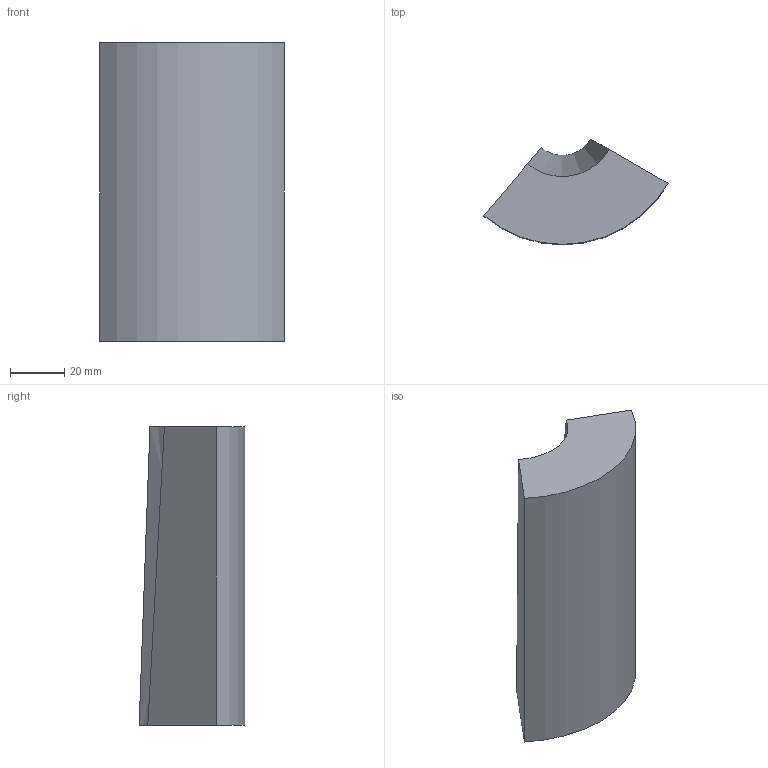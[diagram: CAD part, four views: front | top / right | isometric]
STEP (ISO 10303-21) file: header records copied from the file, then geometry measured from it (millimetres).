
FILE_DESCRIPTION(('Open CASCADE Model'),'2;1');
FILE_NAME('Open CASCADE Shape Model','2026-07-10T11:14:35',('Author'),( 'Open CASCADE'),'Open CASCADE STEP processor 7.9','Open CASCADE 7.9' ,'Unknown');
FILE_SCHEMA(('AUTOMOTIVE_DESIGN { 1 0 10303 214 1 1 1 1 }'));
Length unit declared in the file: millimetre
Products named in the file (1): Open CASCADE STEP translator 7.9 4
Bounding box: 67.9 x 39 x 110 mm (x, y, z)
Volume: 169299.8 mm3; surface area: 21158.8 mm2
Topology: 1 solids, 1 shells, 6 faces, 12 edges, 8 vertices
Faces by surface type: plane 4, cylinder 1, cone 1
Entity records: 314 total; most frequent: CARTESIAN_POINT 63, DIRECTION 42, ORIENTED_EDGE 24, PCURVE 24, DEFINITIONAL_REPRESENTATION 24, LINE 16, VECTOR 16, EDGE_CURVE 12
